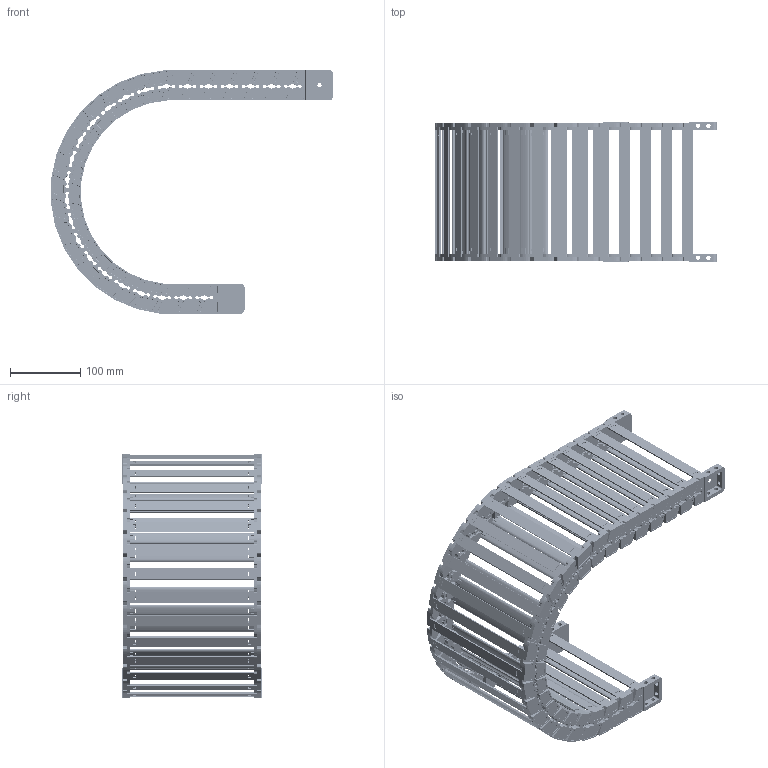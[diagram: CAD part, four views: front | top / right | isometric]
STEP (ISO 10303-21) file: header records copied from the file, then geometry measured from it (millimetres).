
FILE_DESCRIPTION((''),'2;1');
FILE_NAME('JY-35X175-R150_ASM','2026-05-04T14:35:13',('admin'),(''),'CREO PARAMETRIC BY PTC INC, 2021023','CREO PARAMETRIC BY PTC INC, 2021023','');
FILE_SCHEMA(('CONFIG_CONTROL_DESIGN'));
Length unit declared in the file: millimetre
Products named in the file (11): 35XL-L; YP; 35XL-R; ASM0001_ASM; 35-LTT-A-L; 35-LTT-A-R; 35XL-LTT-A_ASM; 35-LTT-B-L; 35-LTT-B-R; 35XL-LTT-B_ASM; JY-35X175-R150_ASM
Assembly tree (37 placements, depth 3):
  JY-35X175-R150_ASM
    ASM0001_ASM  x23
      35XL-L
      YP
      35XL-R
    35XL-LTT-A_ASM
      35-LTT-A-L
      YP  x2
      35-LTT-A-R
    35XL-LTT-B_ASM
      35-LTT-B-L
      YP  x2
      35-LTT-B-R
Bounding box: 402.36 x 200 x 347.06 mm (x, y, z)
Volume: 988420.7 mm3; surface area: 617048 mm2
Topology: 100 solids, 100 shells, 8160 faces, 24472 edges, 16520 vertices
Faces by surface type: plane 4618, cylinder 2678, cone 528, extrusion 192, bspline 144
Entity records: 27906 total; most frequent: CARTESIAN_POINT 6170, ORIENTED_EDGE 4640, DIRECTION 4369, EDGE_CURVE 2320, VERTEX_POINT 1568, AXIS2_PLACEMENT_3D 1476, VECTOR 1417, LINE 1401
